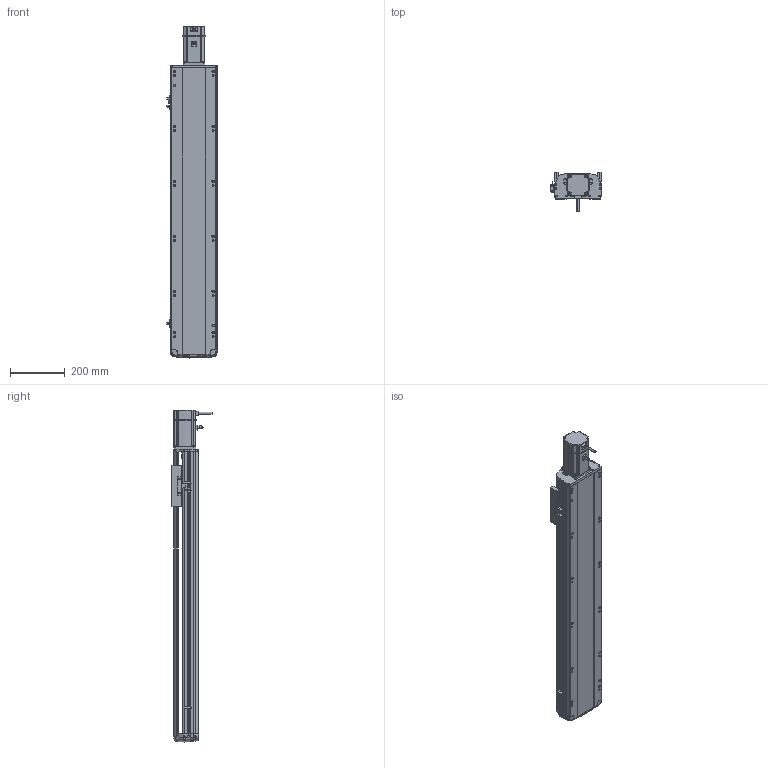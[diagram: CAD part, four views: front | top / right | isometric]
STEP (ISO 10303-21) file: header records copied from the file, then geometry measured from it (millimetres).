
FILE_DESCRIPTION (( 'STEP AP214' ), '1' );
FILE_NAME ('RTH17-XX-800-E-M75-C4.STEP', '2025-10-24T09:39:18', ( '' ), ( '' ), 'SwSTEP 2.0', 'SolidWorks 2018', '' );
FILE_SCHEMA (( 'AUTOMOTIVE_DESIGN' ));
Length unit declared in the file: millimetre
Products named in the file (9): N_RTH17-E-007上盖^RTH17-XX-XX-E-M75-C4（方程式）; N_M75^RTH17-XX-XX-E-M75-C4（方程式）; N_RTH17-E-011底座^RTH17-XX-XX-E-M75-C4（方程式）; N_RTH17-E-008-P75电机板^RTH17-XX-XX-E-M75-C4（方程式）; N_OMRON EE-SX672 換覜ん^RTH17-XX-XX-E-M75-C4ㄗ源最宒ㄘ; RTH17-XX-800-E-M75-C4; N_RTH-L-012 感应片(外置)^RTH17-XX-XX-E-M75-C4（方程式）; N_RTH17-GY-001P^RTH17-XX-XX-E-M75-C4（方程式）; N_RTH17-E-004丝杆螺母连接座^RTH17-XX-XX-E-M75-C4（方程式）
Assembly tree (10 placements, depth 2):
  RTH17-XX-800-E-M75-C4
    N_RTH17-E-011底座^RTH17-XX-XX-E-M75-C4（方程式）
    N_RTH17-E-007上盖^RTH17-XX-XX-E-M75-C4（方程式）
    N_M75^RTH17-XX-XX-E-M75-C4（方程式）
    N_RTH17-E-008-P75电机板^RTH17-XX-XX-E-M75-C4（方程式）
    N_OMRON EE-SX672 換覜ん^RTH17-XX-XX-E-M75-C4ㄗ源最宒ㄘ  x3
    N_RTH-L-012 感应片(外置)^RTH17-XX-XX-E-M75-C4（方程式）
    N_RTH17-E-004丝杆螺母连接座^RTH17-XX-XX-E-M75-C4（方程式）
    N_RTH17-GY-001P^RTH17-XX-XX-E-M75-C4（方程式）
Bounding box: 183.5 x 145.7 x 1208.19 mm (x, y, z)
Volume: 8867797.9 mm3; surface area: 1161378.1 mm2
Topology: 9 solids, 11 shells, 1780 faces, 4929 edges, 3194 vertices
Faces by surface type: plane 824, cylinder 542, bspline 377, cone 28, torus 9
Entity records: 52534 total; most frequent: CARTESIAN_POINT 20663, ORIENTED_EDGE 6882, DIRECTION 5777, EDGE_CURVE 3445, VERTEX_POINT 2230, AXIS2_PLACEMENT_3D 1967, LINE 1843, VECTOR 1843
